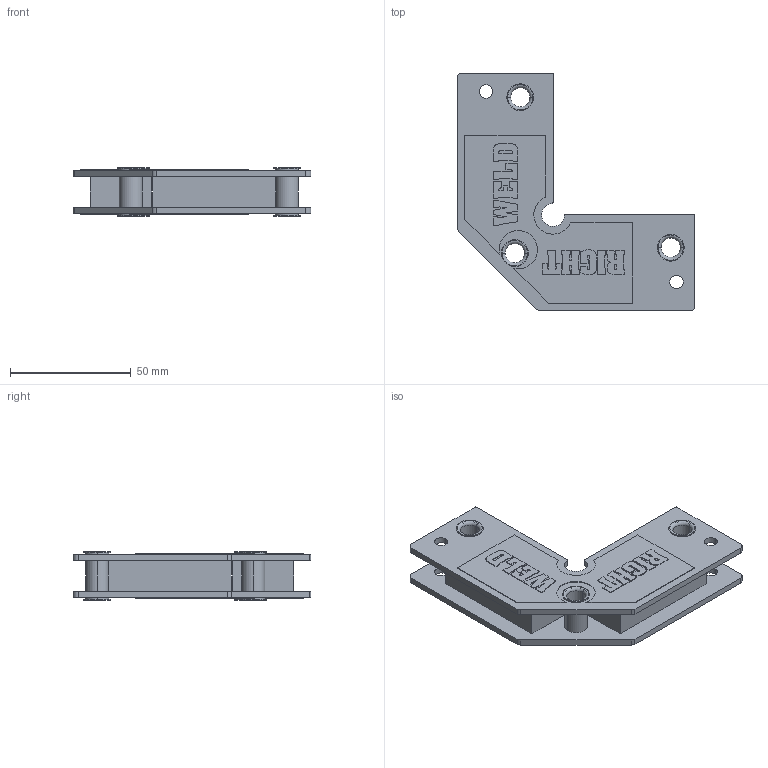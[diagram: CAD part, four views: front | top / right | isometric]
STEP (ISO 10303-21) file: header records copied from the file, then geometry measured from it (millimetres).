
FILE_DESCRIPTION (( 'STEP AP203' ), '1' );
FILE_NAME ('WS100.STEP', '2018-08-21T12:15:24', ( '' ), ( '' ), 'SwSTEP 2.0', 'SolidWorks 2015', '' );
FILE_SCHEMA (( 'CONFIG_CONTROL_DESIGN' ));
Length unit declared in the file: inch
Products named in the file (1): WS100
Bounding box: 98.28 x 98.28 x 19.84 mm (x, y, z)
Volume: 62775.5 mm3; surface area: 47484 mm2
Topology: 9 solids, 9 shells, 634 faces, 1752 edges, 1164 vertices
Faces by surface type: plane 306, bspline 252, cylinder 64, torus 12
Entity records: 21491 total; most frequent: CARTESIAN_POINT 6779, ORIENTED_EDGE 3504, DIRECTION 2166, EDGE_CURVE 1752, VERTEX_POINT 1164, VECTOR 1096, LINE 1096, EDGE_LOOP 688
